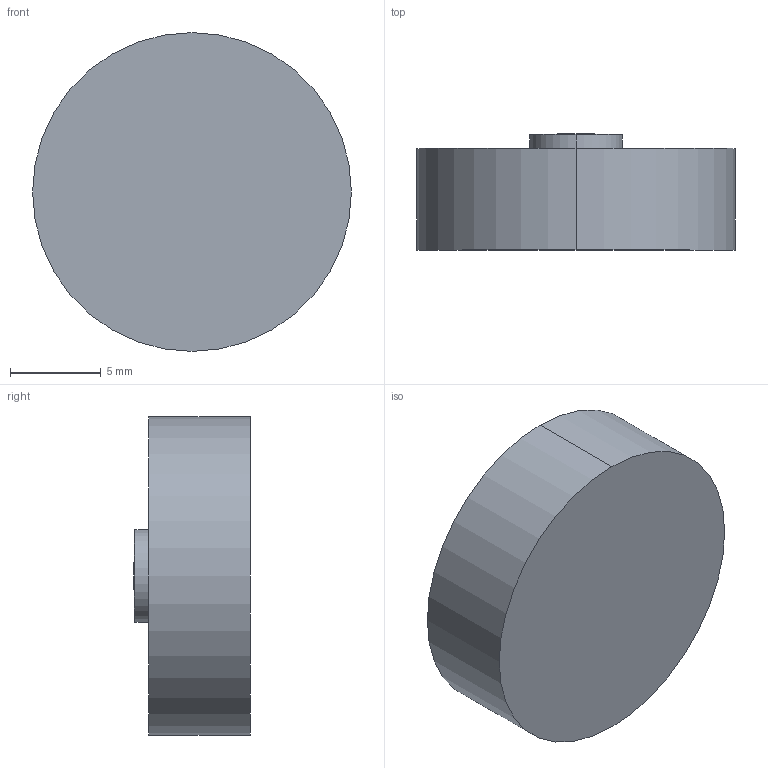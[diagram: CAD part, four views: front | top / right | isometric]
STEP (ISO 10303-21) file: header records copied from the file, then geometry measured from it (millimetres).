
FILE_DESCRIPTION (( 'STEP AP214' ), '1' );
FILE_NAME ('TT31-300LB.STEP', '2024-08-12T14:41:46', ( '' ), ( '' ), 'SwSTEP 2.0', 'SolidWorks 2008', '' );
FILE_SCHEMA (( 'AUTOMOTIVE_DESIGN' ));
Length unit declared in the file: inch
Products named in the file (1): TT31-300LB
Bounding box: 17.53 x 6.41 x 17.53 mm (x, y, z)
Volume: 1364.2 mm3; surface area: 802.3 mm2
Topology: 1 solids, 1 shells, 7 faces, 15 edges, 10 vertices
Faces by surface type: cylinder 4, plane 2, sphere 1
Entity records: 201 total; most frequent: DIRECTION 36, CARTESIAN_POINT 28, ORIENTED_EDGE 24, AXIS2_PLACEMENT_3D 16, EDGE_CURVE 12, EDGE_LOOP 8, CIRCLE 8, VERTEX_POINT 8
